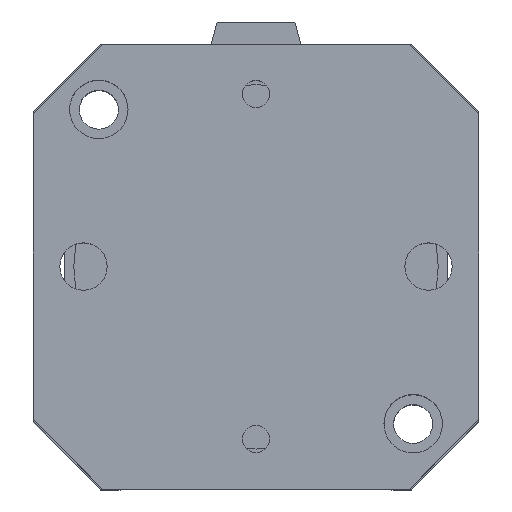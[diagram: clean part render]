
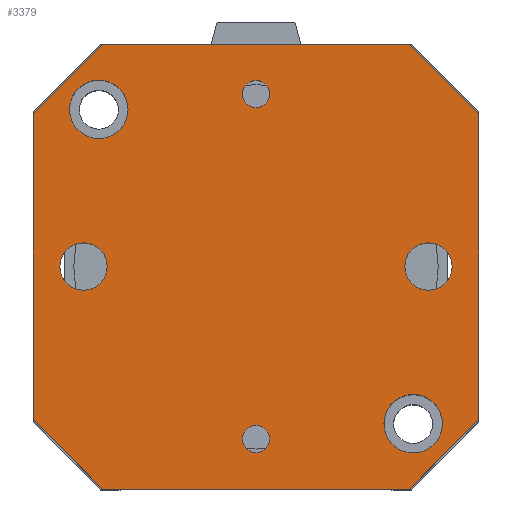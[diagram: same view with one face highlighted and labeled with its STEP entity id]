
A CAD part, top view. The second image highlights one B-rep face of the part: STEP entity #3379.
In plain terms, the highlighted planar face has unit normal (0, 0, 1).
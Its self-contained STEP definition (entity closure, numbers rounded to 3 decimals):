
#265=LINE('',#5630,#519);
#267=LINE('',#5634,#521);
#269=LINE('',#5638,#523);
#271=LINE('',#5642,#525);
#273=LINE('',#5646,#527);
#275=LINE('',#5650,#529);
#277=LINE('',#5654,#531);
#279=LINE('',#5657,#533);
#519=VECTOR('',#4681,55.);
#521=VECTOR('',#4685,17.678);
#523=VECTOR('',#4689,55.);
#525=VECTOR('',#4693,17.678);
#527=VECTOR('',#4697,55.);
#529=VECTOR('',#4701,17.678);
#531=VECTOR('',#4705,55.);
#533=VECTOR('',#4709,17.678);
#627=PLANE('',#3743);
#716=FACE_BOUND('',#1138,.T.);
#717=FACE_BOUND('',#1139,.T.);
#718=FACE_BOUND('',#1140,.T.);
#719=FACE_BOUND('',#1141,.T.);
#720=FACE_BOUND('',#1142,.T.);
#721=FACE_BOUND('',#1143,.T.);
#722=FACE_BOUND('',#1144,.T.);
#1138=EDGE_LOOP('',(#2914));
#1139=EDGE_LOOP('',(#2915));
#1140=EDGE_LOOP('',(#2916));
#1141=EDGE_LOOP('',(#2917));
#1142=EDGE_LOOP('',(#2918));
#1143=EDGE_LOOP('',(#2919));
#1144=EDGE_LOOP('',(#2920,#2921,#2922,#2923,#2924,#2925,#2926,#2927));
#1309=CIRCLE('',#3699,2.459);
#1311=CIRCLE('',#3702,2.459);
#1316=CIRCLE('',#3710,4.25);
#1320=CIRCLE('',#3717,4.25);
#1329=CIRCLE('',#3732,5.25);
#1330=CIRCLE('',#3734,5.25);
#1601=VERTEX_POINT('',#5548);
#1603=VERTEX_POINT('',#5553);
#1608=VERTEX_POINT('',#5566);
#1612=VERTEX_POINT('',#5577);
#1631=VERTEX_POINT('',#5621);
#1632=VERTEX_POINT('',#5624);
#1633=VERTEX_POINT('',#5627);
#1634=VERTEX_POINT('',#5629);
#1635=VERTEX_POINT('',#5633);
#1636=VERTEX_POINT('',#5637);
#1637=VERTEX_POINT('',#5641);
#1638=VERTEX_POINT('',#5645);
#1639=VERTEX_POINT('',#5649);
#1640=VERTEX_POINT('',#5653);
#2025=EDGE_CURVE('',#1601,#1601,#1309,.T.);
#2027=EDGE_CURVE('',#1603,#1603,#1311,.T.);
#2032=EDGE_CURVE('',#1608,#1608,#1316,.T.);
#2036=EDGE_CURVE('',#1612,#1612,#1320,.T.);
#2055=EDGE_CURVE('',#1631,#1631,#1329,.T.);
#2056=EDGE_CURVE('',#1632,#1632,#1330,.T.);
#2058=EDGE_CURVE('',#1634,#1633,#265,.T.);
#2060=EDGE_CURVE('',#1635,#1634,#267,.T.);
#2062=EDGE_CURVE('',#1636,#1635,#269,.T.);
#2064=EDGE_CURVE('',#1637,#1636,#271,.T.);
#2066=EDGE_CURVE('',#1638,#1637,#273,.T.);
#2068=EDGE_CURVE('',#1639,#1638,#275,.T.);
#2070=EDGE_CURVE('',#1640,#1639,#277,.T.);
#2072=EDGE_CURVE('',#1633,#1640,#279,.T.);
#2914=ORIENTED_EDGE('',*,*,#2025,.T.);
#2915=ORIENTED_EDGE('',*,*,#2027,.T.);
#2916=ORIENTED_EDGE('',*,*,#2032,.T.);
#2917=ORIENTED_EDGE('',*,*,#2036,.T.);
#2918=ORIENTED_EDGE('',*,*,#2055,.T.);
#2919=ORIENTED_EDGE('',*,*,#2056,.T.);
#2920=ORIENTED_EDGE('',*,*,#2072,.T.);
#2921=ORIENTED_EDGE('',*,*,#2070,.T.);
#2922=ORIENTED_EDGE('',*,*,#2068,.T.);
#2923=ORIENTED_EDGE('',*,*,#2066,.T.);
#2924=ORIENTED_EDGE('',*,*,#2064,.T.);
#2925=ORIENTED_EDGE('',*,*,#2062,.T.);
#2926=ORIENTED_EDGE('',*,*,#2060,.T.);
#2927=ORIENTED_EDGE('',*,*,#2058,.T.);
#3379=ADVANCED_FACE('',(#716,#717,#718,#719,#720,#721,#722),#627,.T.);
#3699=AXIS2_PLACEMENT_3D('',#5549,#4596,#4597);
#3702=AXIS2_PLACEMENT_3D('',#5554,#4602,#4603);
#3710=AXIS2_PLACEMENT_3D('',#5567,#4618,#4619);
#3717=AXIS2_PLACEMENT_3D('',#5578,#4632,#4633);
#3732=AXIS2_PLACEMENT_3D('',#5622,#4672,#4673);
#3734=AXIS2_PLACEMENT_3D('',#5625,#4676,#4677);
#3743=AXIS2_PLACEMENT_3D('',#5658,#4710,#4711);
#4596=DIRECTION('center_axis',(0.,0.,-1.));
#4597=DIRECTION('ref_axis',(1.,0.,0.));
#4602=DIRECTION('center_axis',(0.,0.,-1.));
#4603=DIRECTION('ref_axis',(1.,0.,0.));
#4618=DIRECTION('center_axis',(0.,0.,-1.));
#4619=DIRECTION('ref_axis',(1.,0.,0.));
#4632=DIRECTION('center_axis',(0.,0.,-1.));
#4633=DIRECTION('ref_axis',(1.,0.,0.));
#4672=DIRECTION('center_axis',(0.,0.,-1.));
#4673=DIRECTION('ref_axis',(-1.,0.,0.));
#4676=DIRECTION('center_axis',(0.,0.,-1.));
#4677=DIRECTION('ref_axis',(-1.,0.,0.));
#4681=DIRECTION('',(0.,1.,0.));
#4685=DIRECTION('',(0.707,0.707,0.));
#4689=DIRECTION('',(1.,0.,0.));
#4693=DIRECTION('',(0.707,-0.707,0.));
#4697=DIRECTION('',(0.,-1.,0.));
#4701=DIRECTION('',(-0.707,-0.707,0.));
#4705=DIRECTION('',(-1.,0.,0.));
#4709=DIRECTION('',(-0.707,0.707,0.));
#4710=DIRECTION('center_axis',(0.,0.,1.));
#4711=DIRECTION('ref_axis',(1.,0.,0.));
#5548=CARTESIAN_POINT('',(-33.459,0.,67.25));
#5549=CARTESIAN_POINT('Origin',(-31.,0.,67.25));
#5553=CARTESIAN_POINT('',(28.542,0.,67.25));
#5554=CARTESIAN_POINT('Origin',(31.,0.,67.25));
#5566=CARTESIAN_POINT('',(-4.25,31.,67.25));
#5567=CARTESIAN_POINT('Origin',(0.,31.,67.25));
#5577=CARTESIAN_POINT('',(-4.25,-31.,67.25));
#5578=CARTESIAN_POINT('Origin',(0.,-31.,67.25));
#5621=CARTESIAN_POINT('',(-23.,-28.25,67.25));
#5622=CARTESIAN_POINT('Origin',(-28.25,-28.25,67.25));
#5624=CARTESIAN_POINT('',(33.5,28.25,67.25));
#5625=CARTESIAN_POINT('Origin',(28.25,28.25,67.25));
#5627=CARTESIAN_POINT('',(40.,27.5,67.25));
#5629=CARTESIAN_POINT('',(40.,-27.5,67.25));
#5630=CARTESIAN_POINT('',(40.,27.5,67.25));
#5633=CARTESIAN_POINT('',(27.5,-40.,67.25));
#5634=CARTESIAN_POINT('',(40.,-27.5,67.25));
#5637=CARTESIAN_POINT('',(-27.5,-40.,67.25));
#5638=CARTESIAN_POINT('',(27.5,-40.,67.25));
#5641=CARTESIAN_POINT('',(-40.,-27.5,67.25));
#5642=CARTESIAN_POINT('',(-27.5,-40.,67.25));
#5645=CARTESIAN_POINT('',(-40.,27.5,67.25));
#5646=CARTESIAN_POINT('',(-40.,-27.5,67.25));
#5649=CARTESIAN_POINT('',(-27.5,40.,67.25));
#5650=CARTESIAN_POINT('',(-40.,27.5,67.25));
#5653=CARTESIAN_POINT('',(27.5,40.,67.25));
#5654=CARTESIAN_POINT('',(-27.5,40.,67.25));
#5657=CARTESIAN_POINT('',(27.5,40.,67.25));
#5658=CARTESIAN_POINT('Origin',(0.,0.,
67.25));
